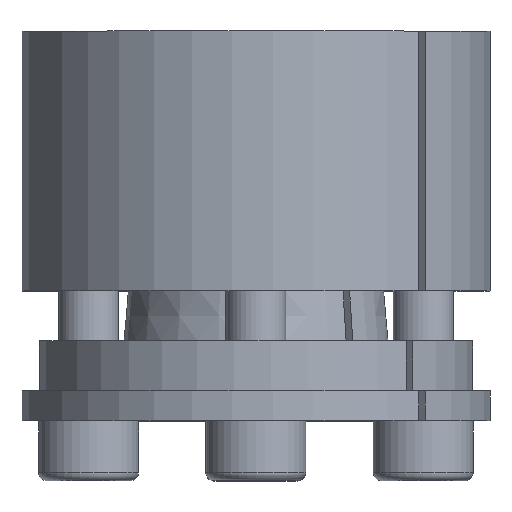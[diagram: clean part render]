
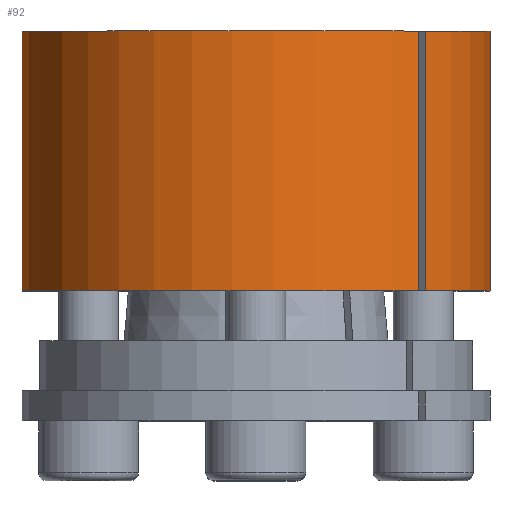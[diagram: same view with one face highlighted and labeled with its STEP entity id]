
A CAD part, top view. The second image highlights one B-rep face of the part: STEP entity #92.
In plain terms, the highlighted cylindrical face has radius 23.5 mm (diameter 47 mm), a partial arc.
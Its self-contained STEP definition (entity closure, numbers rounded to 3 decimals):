
#92 = ADVANCED_FACE( '', ( #197 ), #198, .T. );
#197 = FACE_OUTER_BOUND( '', #309, .T. );
#198 = CYLINDRICAL_SURFACE( '', #310, 23.5 );
#309 = EDGE_LOOP( '', ( #506, #507, #508, #509 ) );
#310 = AXIS2_PLACEMENT_3D( '', #510, #511, #512 );
#506 = ORIENTED_EDGE( '', *, *, #685, .F. );
#507 = ORIENTED_EDGE( '', *, *, #694, .T. );
#508 = ORIENTED_EDGE( '', *, *, #661, .T. );
#509 = ORIENTED_EDGE( '', *, *, #679, .T. );
#510 = CARTESIAN_POINT( '', ( 0., -60., 0. ) );
#511 = DIRECTION( '', ( 0., 1., 0. ) );
#512 = DIRECTION( '', ( 0., 0., -1. ) );
#661 = EDGE_CURVE( '', #818, #819, #820, .T. );
#679 = EDGE_CURVE( '', #819, #847, #849, .T. );
#685 = EDGE_CURVE( '', #857, #847, #859, .T. );
#694 = EDGE_CURVE( '', #857, #818, #869, .F. );
#818 = VERTEX_POINT( '', #1089 );
#819 = VERTEX_POINT( '', #1090 );
#820 = CIRCLE( '', #1091, 23.5 );
#847 = VERTEX_POINT( '', #1128 );
#849 = LINE( '', #1131, #1132 );
#857 = VERTEX_POINT( '', #1140 );
#859 = CIRCLE( '', #1143, 23.5 );
#869 = LINE( '', #1157, #1158 );
#1089 = CARTESIAN_POINT( '', ( 16.281, 39., 16.946 ) );
#1090 = CARTESIAN_POINT( '', ( 16.946, 39., 16.281 ) );
#1091 = AXIS2_PLACEMENT_3D( '', #1259, #1260, #1261 );
#1128 = CARTESIAN_POINT( '', ( 16.946, 13., 16.281 ) );
#1131 = CARTESIAN_POINT( '', ( 16.946, -60., 16.281 ) );
#1132 = VECTOR( '', #1288, 1000. );
#1140 = CARTESIAN_POINT( '', ( 16.281, 13., 16.946 ) );
#1143 = AXIS2_PLACEMENT_3D( '', #1299, #1300, #1301 );
#1157 = CARTESIAN_POINT( '', ( 16.281, -60., 16.946 ) );
#1158 = VECTOR( '', #1306, 1000. );
#1259 = CARTESIAN_POINT( '', ( 0., 39., 0. ) );
#1260 = DIRECTION( '', ( 0., -1., 0. ) );
#1261 = DIRECTION( '', ( 0., 0., -1. ) );
#1288 = DIRECTION( '', ( 0., -1., 0. ) );
#1299 = CARTESIAN_POINT( '', ( 0., 13., 0. ) );
#1300 = DIRECTION( '', ( 0., -1., 0. ) );
#1301 = DIRECTION( '', ( 0., 0., -1. ) );
#1306 = DIRECTION( '', ( 0., -1., 0. ) );
